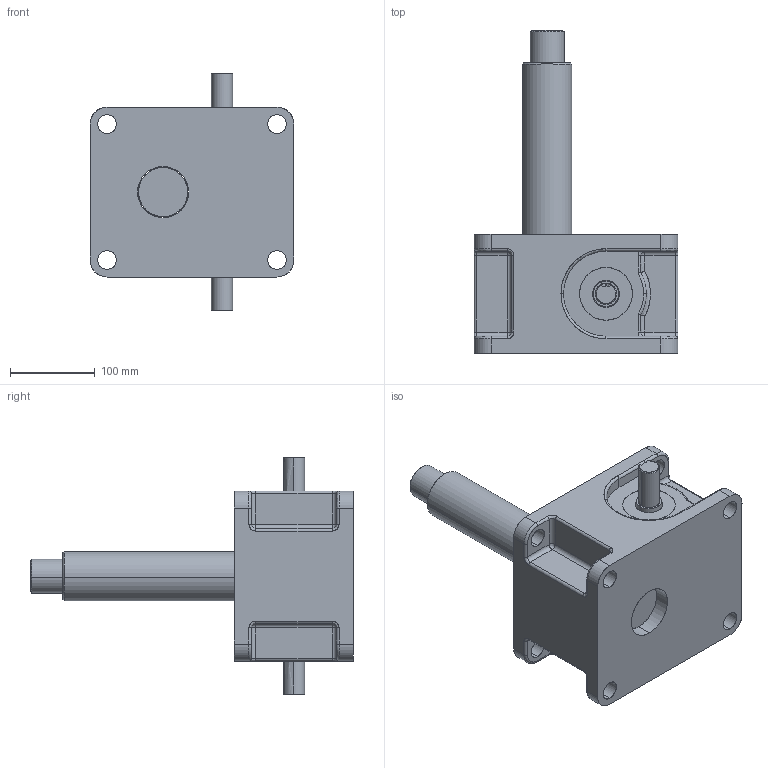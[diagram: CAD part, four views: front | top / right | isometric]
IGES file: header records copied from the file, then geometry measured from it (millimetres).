
Start section: SolidWorks IGES file using analytic representation for surfaces
Global section: file name: E:\3D\desenv\Solid Works\Levy\web\LMR\LMR10.15\montagem.IGS; native system: SolidWorks 2008; preprocessor: SolidWorks 2008; author: User; date: 080730.211900; units: millimetre
Bounding box: 240 x 380 x 280 mm (x, y, z)
Surface area: 435806.2 mm2 (no closed solid volume)
Topology: 0 solids, 0 shells, 285 faces, 5081 edges, 5079 vertices
Faces by surface type: revolution 191, bspline 94
